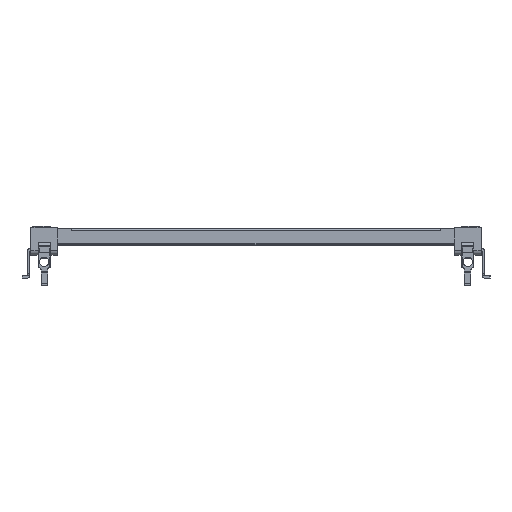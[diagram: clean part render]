
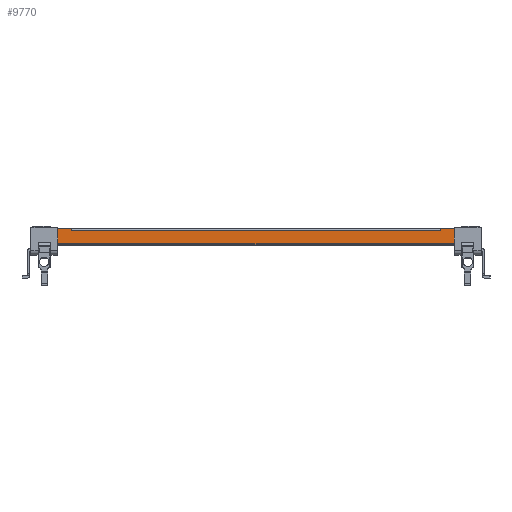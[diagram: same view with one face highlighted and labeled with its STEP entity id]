
A CAD part, front view. The second image highlights one B-rep face of the part: STEP entity #9770.
In plain terms, the highlighted planar face has unit normal (0, -1, 0).
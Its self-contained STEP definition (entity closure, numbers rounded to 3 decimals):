
#235 = EDGE_CURVE ( 'NONE', #6866, #3440, #2761, .T. ) ;
#418 = VECTOR ( 'NONE', #9038, 1000. ) ;
#524 = VECTOR ( 'NONE', #7167, 1000. ) ;
#602 = PLANE ( 'NONE',  #1222 ) ;
#641 = VERTEX_POINT ( 'NONE', #9432 ) ;
#673 = ORIENTED_EDGE ( 'NONE', *, *, #4472, .F. ) ;
#747 = VECTOR ( 'NONE', #2515, 1000. ) ;
#1077 = FACE_OUTER_BOUND ( 'NONE', #3290, .T. ) ;
#1222 = AXIS2_PLACEMENT_3D ( 'NONE', #7285, #3958, #9841 ) ;
#1270 = LINE ( 'NONE', #4783, #5169 ) ;
#2065 = ORIENTED_EDGE ( 'NONE', *, *, #235, .F. ) ;
#2185 = DIRECTION ( 'NONE',  ( -1., 0., 0. ) ) ;
#2338 = CARTESIAN_POINT ( 'NONE',  ( 303.5, -740., 28. ) ) ;
#2360 = CARTESIAN_POINT ( 'NONE',  ( -283., -740., 23.5 ) ) ;
#2411 = LINE ( 'NONE', #5498, #8301 ) ;
#2415 = EDGE_CURVE ( 'NONE', #5260, #641, #5439, .T. ) ;
#2515 = DIRECTION ( 'NONE',  ( 1., 0., 0. ) ) ;
#2761 = LINE ( 'NONE', #8857, #524 ) ;
#2892 = EDGE_CURVE ( 'NONE', #5978, #7790, #1270, .T. ) ;
#3068 = VECTOR ( 'NONE', #8237, 1000. ) ;
#3290 = EDGE_LOOP ( 'NONE', ( #673, #5993, #4763, #8898, #8537, #4866, #2065, #9982 ) ) ;
#3440 = VERTEX_POINT ( 'NONE', #6395 ) ;
#3753 = EDGE_CURVE ( 'NONE', #7862, #6866, #5290, .T. ) ;
#3958 = DIRECTION ( 'NONE',  ( 0., 1., 0. ) ) ;
#4174 = CARTESIAN_POINT ( 'NONE',  ( -283., -740., 23.5 ) ) ;
#4458 = CARTESIAN_POINT ( 'NONE',  ( 303.5, -740., 26. ) ) ;
#4472 = EDGE_CURVE ( 'NONE', #5569, #7862, #2411, .T. ) ;
#4521 = CARTESIAN_POINT ( 'NONE',  ( 303.5, -740., 3.5 ) ) ;
#4763 = ORIENTED_EDGE ( 'NONE', *, *, #2892, .F. ) ;
#4783 = CARTESIAN_POINT ( 'NONE',  ( 308., -740., 26. ) ) ;
#4866 = ORIENTED_EDGE ( 'NONE', *, *, #7037, .T. ) ;
#5027 = VECTOR ( 'NONE', #10197, 1000. ) ;
#5169 = VECTOR ( 'NONE', #5635, 1000. ) ;
#5175 = VECTOR ( 'NONE', #9477, 1000. ) ;
#5260 = VERTEX_POINT ( 'NONE', #2360 ) ;
#5290 = LINE ( 'NONE', #9348, #5027 ) ;
#5439 = LINE ( 'NONE', #4174, #747 ) ;
#5498 = CARTESIAN_POINT ( 'NONE',  ( 308.45, -740., 3.5 ) ) ;
#5569 = VERTEX_POINT ( 'NONE', #4521 ) ;
#5635 = DIRECTION ( 'NONE',  ( 1., 0., 0. ) ) ;
#5978 = VERTEX_POINT ( 'NONE', #7899 ) ;
#5993 = ORIENTED_EDGE ( 'NONE', *, *, #9142, .T. ) ;
#6395 = CARTESIAN_POINT ( 'NONE',  ( -283., -740., 26. ) ) ;
#6866 = VERTEX_POINT ( 'NONE', #7550 ) ;
#6925 = CARTESIAN_POINT ( 'NONE',  ( -283., -740., 26. ) ) ;
#7037 = EDGE_CURVE ( 'NONE', #5260, #3440, #7405, .T. ) ;
#7090 = LINE ( 'NONE', #2338, #418 ) ;
#7167 = DIRECTION ( 'NONE',  ( 1., 0., 0. ) ) ;
#7285 = CARTESIAN_POINT ( 'NONE',  ( -342.5, -740., 2.5 ) ) ;
#7405 = LINE ( 'NONE', #6925, #5175 ) ;
#7550 = CARTESIAN_POINT ( 'NONE',  ( -303.5, -740., 26. ) ) ;
#7790 = VERTEX_POINT ( 'NONE', #4458 ) ;
#7862 = VERTEX_POINT ( 'NONE', #10439 ) ;
#7899 = CARTESIAN_POINT ( 'NONE',  ( 283., -740., 26. ) ) ;
#8089 = EDGE_CURVE ( 'NONE', #641, #5978, #10033, .T. ) ;
#8237 = DIRECTION ( 'NONE',  ( 0., 0., 1. ) ) ;
#8301 = VECTOR ( 'NONE', #2185, 1000. ) ;
#8537 = ORIENTED_EDGE ( 'NONE', *, *, #2415, .F. ) ;
#8857 = CARTESIAN_POINT ( 'NONE',  ( 308., -740., 26. ) ) ;
#8898 = ORIENTED_EDGE ( 'NONE', *, *, #8089, .F. ) ;
#9038 = DIRECTION ( 'NONE',  ( 0., 0., 1. ) ) ;
#9060 = CARTESIAN_POINT ( 'NONE',  ( 283., -740., 26. ) ) ;
#9142 = EDGE_CURVE ( 'NONE', #5569, #7790, #7090, .T. ) ;
#9348 = CARTESIAN_POINT ( 'NONE',  ( -303.5, -740., 28. ) ) ;
#9432 = CARTESIAN_POINT ( 'NONE',  ( 283., -740., 23.5 ) ) ;
#9477 = DIRECTION ( 'NONE',  ( 0., 0., 1. ) ) ;
#9770 = ADVANCED_FACE ( 'NONE', ( #1077 ), #602, .F. ) ;
#9841 = DIRECTION ( 'NONE',  ( 0., 0., 1. ) ) ;
#9982 = ORIENTED_EDGE ( 'NONE', *, *, #3753, .F. ) ;
#10033 = LINE ( 'NONE', #9060, #3068 ) ;
#10197 = DIRECTION ( 'NONE',  ( 0., 0., 1. ) ) ;
#10439 = CARTESIAN_POINT ( 'NONE',  ( -303.5, -740., 3.5 ) ) ;
